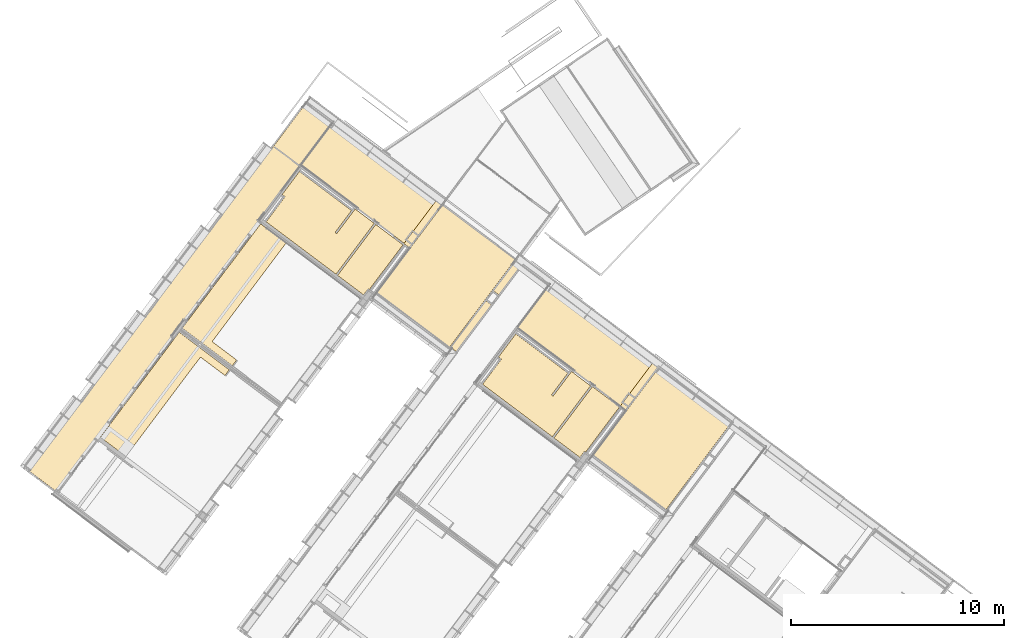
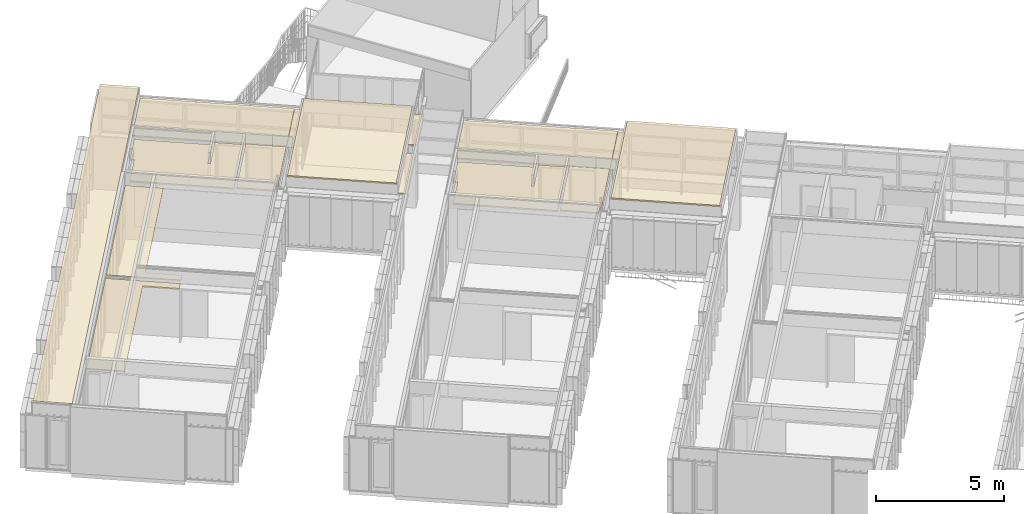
# One storey, part 219 of 243: 13 coverings.
"""IFC2X3 building model written with IfcOpenShell, lengths in metres."""

from ifc_helpers import new_model, entity, si_unit, converted_unit, derived_unit, direction, frame, frame_2d, origin, place, context, subcontext, project, spatial, polyline, rectangle, outline, extrude, material, layer, layer_set, layer_usage, type_object, element, save


model = new_model("IFC2X3")

# Units and contexts
model_context = context("Model", 3, precision=1e-05, world=origin(), true_north=direction((6.123031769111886e-17, 1.0)))
body_context = subcontext(model_context, "Body", "Model", "MODEL_VIEW")
ifc_project = project(units=[si_unit("LENGTHUNIT", "METRE"), si_unit("AREAUNIT", "SQUARE_METRE"), si_unit("VOLUMEUNIT", "CUBIC_METRE"), converted_unit("PLANEANGLEUNIT", "DEGREE", entity("IfcRatioMeasure", 0.017453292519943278), si_unit("PLANEANGLEUNIT", "RADIAN"), dimensions=[0, 0, 0, 0, 0, 0, 0]), si_unit("MASSUNIT", "GRAM", prefix="KILO"), derived_unit("MASSDENSITYUNIT", [(si_unit("MASSUNIT", "GRAM", prefix="KILO"), 1), (si_unit("LENGTHUNIT", "METRE"), -3)]), derived_unit("IONCONCENTRATIONUNIT", [(si_unit("MASSUNIT", "GRAM", prefix="KILO"), 1), (si_unit("LENGTHUNIT", "METRE"), -3)]), derived_unit("MOMENTOFINERTIAUNIT", [(si_unit("LENGTHUNIT", "METRE"), 4)]), si_unit("TIMEUNIT", "SECOND"), si_unit("FREQUENCYUNIT", "HERTZ"), si_unit("THERMODYNAMICTEMPERATUREUNIT", "DEGREE_CELSIUS"), derived_unit("THERMALTRANSMITTANCEUNIT", [(si_unit("MASSUNIT", "GRAM", prefix="KILO"), 1), (si_unit("THERMODYNAMICTEMPERATUREUNIT", "KELVIN"), -1), (si_unit("TIMEUNIT", "SECOND"), -3)]), derived_unit("THERMALCONDUCTANCEUNIT", [(si_unit("MASSUNIT", "GRAM", prefix="KILO"), 1), (si_unit("THERMODYNAMICTEMPERATUREUNIT", "KELVIN"), -1), (si_unit("TIMEUNIT", "SECOND"), -3), (si_unit("LENGTHUNIT", "METRE"), 1)]), derived_unit("VOLUMETRICFLOWRATEUNIT", [(si_unit("LENGTHUNIT", "METRE"), 3), (si_unit("TIMEUNIT", "SECOND"), -1)]), derived_unit("MASSFLOWRATEUNIT", [(si_unit("MASSUNIT", "GRAM", prefix="KILO"), 1), (si_unit("TIMEUNIT", "SECOND"), -1)]), derived_unit("ROTATIONALFREQUENCYUNIT", [(si_unit("TIMEUNIT", "SECOND"), -1)]), si_unit("ELECTRICCURRENTUNIT", "AMPERE"), si_unit("ELECTRICVOLTAGEUNIT", "VOLT"), si_unit("POWERUNIT", "WATT"), si_unit("FORCEUNIT", "NEWTON", prefix="KILO"), si_unit("ILLUMINANCEUNIT", "LUX"), si_unit("LUMINOUSFLUXUNIT", "LUMEN"), si_unit("LUMINOUSINTENSITYUNIT", "CANDELA"), derived_unit("USERDEFINED", [(si_unit("MASSUNIT", "GRAM", prefix="KILO"), -1), (si_unit("LENGTHUNIT", "METRE"), -2), (si_unit("TIMEUNIT", "SECOND"), 3), (si_unit("LUMINOUSFLUXUNIT", "LUMEN"), 1)]), derived_unit("USERDEFINED", [(si_unit("MASSUNIT", "GRAM", prefix="KILO"), 1), (si_unit("TIMEUNIT", "SECOND"), -3), (si_unit("LENGTHUNIT", "METRE"), 3), (si_unit("ELECTRICCURRENTUNIT", "AMPERE"), -2)]), derived_unit("SOUNDPOWERUNIT", [(si_unit("MASSUNIT", "GRAM", prefix="KILO"), 1), (si_unit("TIMEUNIT", "SECOND"), -3), (si_unit("LENGTHUNIT", "METRE"), 2)]), derived_unit("SOUNDPRESSUREUNIT", [(si_unit("MASSUNIT", "GRAM", prefix="KILO"), 1), (si_unit("LENGTHUNIT", "METRE"), -1), (si_unit("TIMEUNIT", "SECOND"), -2)]), derived_unit("LINEARVELOCITYUNIT", [(si_unit("LENGTHUNIT", "METRE"), 1), (si_unit("TIMEUNIT", "SECOND"), -1)]), si_unit("PRESSUREUNIT", "PASCAL"), derived_unit("USERDEFINED", [(si_unit("MASSUNIT", "GRAM", prefix="KILO"), 1), (si_unit("LENGTHUNIT", "METRE"), -2), (si_unit("TIMEUNIT", "SECOND"), -2)]), derived_unit("LINEARFORCEUNIT", [(si_unit("MASSUNIT", "GRAM", prefix="KILO"), 1), (si_unit("TIMEUNIT", "SECOND"), -2)]), derived_unit("PLANARFORCEUNIT", [(si_unit("MASSUNIT", "GRAM", prefix="KILO"), 1), (si_unit("LENGTHUNIT", "METRE"), -1), (si_unit("TIMEUNIT", "SECOND"), -2)]), derived_unit("SPECIFICHEATCAPACITYUNIT", [(si_unit("THERMODYNAMICTEMPERATUREUNIT", "KELVIN"), -1), (si_unit("LENGTHUNIT", "METRE"), 2), (si_unit("TIMEUNIT", "SECOND"), -2)]), derived_unit("HEATINGVALUEUNIT", [(si_unit("LENGTHUNIT", "METRE"), 2), (si_unit("TIMEUNIT", "SECOND"), -2)]), derived_unit("VAPORPERMEABILITYUNIT", [(si_unit("LENGTHUNIT", "METRE"), -1), (si_unit("TIMEUNIT", "SECOND"), 1)]), derived_unit("DYNAMICVISCOSITYUNIT", [(si_unit("MASSUNIT", "GRAM", prefix="KILO"), 1), (si_unit("TIMEUNIT", "SECOND"), -1), (si_unit("LENGTHUNIT", "METRE"), -1)]), derived_unit("THERMALEXPANSIONCOEFFICIENTUNIT", [(si_unit("THERMODYNAMICTEMPERATUREUNIT", "KELVIN"), -1)]), derived_unit("MODULUSOFELASTICITYUNIT", [(si_unit("MASSUNIT", "GRAM", prefix="KILO"), 1), (si_unit("LENGTHUNIT", "METRE"), -1), (si_unit("TIMEUNIT", "SECOND"), -2)]), derived_unit("ISOTHERMALMOISTURECAPACITYUNIT", [(si_unit("LENGTHUNIT", "METRE"), 3), (si_unit("MASSUNIT", "GRAM", prefix="KILO"), -1)]), derived_unit("MOISTUREDIFFUSIVITYUNIT", [(si_unit("TIMEUNIT", "SECOND"), -1), (si_unit("LENGTHUNIT", "METRE"), 2)])], contexts=[model_context])

# Site, building, storey
site_placement = place(None, frame((0.0, 0.0, 235.0), z_axis=(0.0, 0.0, 1.0), x_axis=(-0.7996477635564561, 0.6004693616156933, 0.0)))
site = spatial("IfcSite", under=ifc_project, at=site_placement, Name="Default", CompositionType="ELEMENT")
building_placement = place(site_placement, origin())
building = spatial("IfcBuilding", under=site, at=building_placement, CompositionType="ELEMENT")
storey_placement = place(building_placement, origin())
storey = spatial("IfcBuildingStorey", under=building, at=storey_placement, Name="P0- Escola", CompositionType="ELEMENT", Elevation=0.0)

# Coverings
ifc_material_1 = material(Name="_Aillament")
ifc_layer_1 = layer(ifc_material_1, 0.05)
ifc_material_2 = material(Name="_PYL- SOS")
ifc_layer_2 = layer(ifc_material_2, 0.015)
ifc_layer_set_1 = layer_set([ifc_layer_1, ifc_layer_2], Name="Techo compuesto:SOS- Guix Laminat- Aillament- 6,5 cm")
ifc_layer_usage_1 = layer_usage(ifc_layer_set_1, "AXIS3", "POSITIVE", 0.0)
covering_type_1 = type_object("IfcCoveringType", Name="Techo compuesto:SOS- Guix Laminat- Aillament- 6,5 cm", PredefinedType="CEILING")
covering_1_placement = place(storey_placement, frame((54.045147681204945, -42.04019175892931, 2.5649999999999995)))
element("IfcCovering", 1, at=covering_1_placement, inside=storey, type_object=covering_type_1, material=ifc_layer_usage_1, Name="Techo compuesto:SOS- Guix Laminat- Aillament- 6,5 cm", ObjectType="Techo compuesto:SOS- Guix Laminat- Aillament- 6,5 cm", PredefinedType="CEILING", context=body_context, shape_type="SweptSolid", body=[
    extrude(rectangle(XDim=2.569999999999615, YDim=6.064999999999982, at=frame_2d((-4.3298697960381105e-15, -4.218847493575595e-15), x_axis=(1.0, 0.0))), frame((3.032499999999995, 1.2849999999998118, 0.0), z_axis=(0.0, 0.0, 1.0), x_axis=(0.0, 1.0, 0.0)), (0.0, 0.0, 1.0), 0.06499999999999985),
])
covering_2_placement = place(storey_placement, frame((72.84514768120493, -42.04019175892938, 3.0850000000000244)))
element("IfcCovering", 2, at=covering_2_placement, inside=storey, type_object=covering_type_1, material=ifc_layer_usage_1, Name="Techo compuesto:SOS- Guix Laminat- Aillament- 6,5 cm", ObjectType="Techo compuesto:SOS- Guix Laminat- Aillament- 6,5 cm", PredefinedType="CEILING", context=body_context, shape_type="SweptSolid", body=[
    extrude(rectangle(XDim=21.68625000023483, YDim=1.5349999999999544, at=frame_2d((0.8465619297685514, 0.15350000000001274), x_axis=(1.0, 0.0))), frame((0.9210000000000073, 9.996563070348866, 0.0), z_axis=(0.0, 0.0, 1.0), x_axis=(0.0, 1.0, 0.0)), (0.0, 0.0, 1.0), 0.06499999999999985),
])
covering_3_placement = place(storey_placement, frame((66.74514768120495, -42.04019175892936, 2.5649999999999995)))
element("IfcCovering", 3, at=covering_3_placement, inside=storey, type_object=covering_type_1, material=ifc_layer_usage_1, Name="Techo compuesto:SOS- Guix Laminat- Aillament- 6,5 cm", ObjectType="Techo compuesto:SOS- Guix Laminat- Aillament- 6,5 cm", PredefinedType="CEILING", context=body_context, shape_type="SweptSolid", body=[
    extrude(rectangle(XDim=2.569999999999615, YDim=6.064999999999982, at=frame_2d((-4.3298697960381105e-15, 4.218847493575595e-15), x_axis=(1.0, 0.0))), frame((3.032499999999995, 1.2849999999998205, 0.0), z_axis=(0.0, 0.0, 1.0), x_axis=(0.0, 1.0, 0.0)), (0.0, 0.0, 1.0), 0.06499999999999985),
])
covering_4_placement = place(storey_placement, frame((49.41014768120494, -42.04019175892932, 3.0850000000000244)))
element("IfcCovering", 4, at=covering_4_placement, inside=storey, type_object=covering_type_1, material=ifc_layer_usage_1, Name="Techo compuesto:SOS- Guix Laminat- Aillament- 6,5 cm", ObjectType="Techo compuesto:SOS- Guix Laminat- Aillament- 6,5 cm", PredefinedType="CEILING", context=body_context, shape_type="SweptSolid", body=[
    extrude(rectangle(XDim=5.274999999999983, YDim=4.269999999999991, at=frame_2d((2.220446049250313e-15, 4.440892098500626e-15), x_axis=(1.0, 0.0))), frame((2.135, 2.637500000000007, 0.0), z_axis=(0.0, 0.0, 1.0), x_axis=(0.0, -1.0, 0.0)), (0.0, 0.0, 1.0), 0.06499999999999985),
])
covering_5_placement = place(storey_placement, frame((62.11014768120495, -42.04019175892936, 3.0850000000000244)))
element("IfcCovering", 5, at=covering_5_placement, inside=storey, type_object=covering_type_1, material=ifc_layer_usage_1, Name="Techo compuesto:SOS- Guix Laminat- Aillament- 6,5 cm", ObjectType="Techo compuesto:SOS- Guix Laminat- Aillament- 6,5 cm", PredefinedType="CEILING", context=body_context, shape_type="SweptSolid", body=[
    extrude(rectangle(XDim=5.274999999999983, YDim=4.269999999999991, at=frame_2d((2.220446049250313e-15, 4.440892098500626e-15), x_axis=(1.0, 0.0))), frame((2.134999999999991, 2.637500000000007, 0.0), z_axis=(0.0, 0.0, 1.0), x_axis=(0.0, -1.0, 0.0)), (0.0, 0.0, 1.0), 0.06499999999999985),
])
covering_6_placement = place(storey_placement, frame((66.74514768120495, -39.38019175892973, 2.6)))
element("IfcCovering", 6, at=covering_6_placement, inside=storey, type_object=covering_type_1, material=ifc_layer_usage_1, Name="Techo compuesto:SOS- Guix Laminat- Aillament- 6,5 cm", ObjectType="Techo compuesto:SOS- Guix Laminat- Aillament- 6,5 cm", PredefinedType="CEILING", context=body_context, shape_type="SweptSolid", body=[
    extrude(outline(polyline([(-1.0403333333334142, -1.1183333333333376), (0.48766666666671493, -1.1183333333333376), (0.48766666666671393, -0.7533333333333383), (0.5526666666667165, -0.7533333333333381), (0.552666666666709, 1.8716666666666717), (-1.0403333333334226, 1.8716666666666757), (-1.0403333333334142, -1.1183333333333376)])), frame((0.5526666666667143, 1.8716666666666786, 0.0), z_axis=(0.0, 0.0, 1.0), x_axis=(-1.0, 0.0, 0.0)), (0.0, 0.0, 1.0), 0.06499999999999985),
])
covering_7_placement = place(storey_placement, frame((68.42814768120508, -39.38019175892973, 2.5649999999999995)))
element("IfcCovering", 7, at=covering_7_placement, inside=storey, type_object=covering_type_1, material=ifc_layer_usage_1, Name="Techo compuesto:SOS- Guix Laminat- Aillament- 6,5 cm", ObjectType="Techo compuesto:SOS- Guix Laminat- Aillament- 6,5 cm", PredefinedType="CEILING", context=body_context, shape_type="SweptSolid", body=[
    extrude(outline(polyline([(-1.9611999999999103, -1.7660000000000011), (2.1407999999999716, -1.7660000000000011), (2.1407999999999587, 1.2240000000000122), (1.020799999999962, 1.2240000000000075), (1.0207999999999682, -0.22599999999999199), (0.9307999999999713, -0.22599999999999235), (0.9307999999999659, 1.0640000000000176), (-2.1311999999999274, 1.0640000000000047), (-2.131199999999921, -0.2960000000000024), (-1.9611999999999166, -0.29600000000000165), (-1.9611999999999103, -1.7660000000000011)])), frame((2.1407999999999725, 1.2240000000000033, 0.0), z_axis=(0.0, 0.0, 1.0), x_axis=(-1.0, 0.0, 0.0)), (0.0, 0.0, 1.0), 0.06499999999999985),
])
covering_8_placement = place(storey_placement, frame((54.045147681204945, -39.40019175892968, 2.6)))
element("IfcCovering", 8, at=covering_8_placement, inside=storey, type_object=covering_type_1, material=ifc_layer_usage_1, Name="Techo compuesto:SOS- Guix Laminat- Aillament- 6,5 cm", ObjectType="Techo compuesto:SOS- Guix Laminat- Aillament- 6,5 cm", PredefinedType="CEILING", context=body_context, shape_type="SweptSolid", body=[
    extrude(outline(polyline([(-1.0403333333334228, -1.1249999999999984), (0.48766666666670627, -1.1249999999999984), (0.4876666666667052, -0.7599999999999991), (0.5526666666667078, -0.7599999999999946), (0.5526666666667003, 1.8850000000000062), (-1.0403333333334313, 1.8850000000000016), (-1.0403333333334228, -1.1249999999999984)])), frame((0.5526666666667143, 1.8850000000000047, 0.0), z_axis=(0.0, 0.0, 1.0), x_axis=(-1.0, 0.0, 0.0)), (0.0, 0.0, 1.0), 0.06499999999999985),
])
covering_9_placement = place(storey_placement, frame((55.72814768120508, -39.38019175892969, 2.5649999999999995)))
element("IfcCovering", 9, at=covering_9_placement, inside=storey, type_object=covering_type_1, material=ifc_layer_usage_1, Name="Techo compuesto:SOS- Guix Laminat- Aillament- 6,5 cm", ObjectType="Techo compuesto:SOS- Guix Laminat- Aillament- 6,5 cm", PredefinedType="CEILING", context=body_context, shape_type="SweptSolid", body=[
    extrude(outline(polyline([(-1.961199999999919, -1.7660000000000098), (2.1407999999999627, -1.7660000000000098), (2.14079999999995, 1.2240000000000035), (1.0207999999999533, 1.2239999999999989), (1.0207999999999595, -0.22600000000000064), (0.9307999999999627, -0.226000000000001), (0.9307999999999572, 1.064000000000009), (-2.131199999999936, 1.063999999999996), (-2.13119999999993, -0.29600000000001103), (-1.9611999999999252, -0.2960000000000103), (-1.961199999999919, -1.7660000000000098)])), frame((2.140799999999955, 1.2239999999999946, 0.0), z_axis=(0.0, 0.0, 1.0), x_axis=(-1.0, 0.0, 0.0)), (0.0, 0.0, 1.0), 0.06499999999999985),
])
ifc_layer_3 = layer(ifc_material_1, 0.02)
ifc_layer_4 = layer(ifc_material_2, 0.015)
ifc_layer_set_2 = layer_set([ifc_layer_3, ifc_layer_4], Name="Techo compuesto:SOS- Guix Laminat- Aillament- 3,5 cm")
ifc_layer_usage_2 = layer_usage(ifc_layer_set_2, "AXIS3", "POSITIVE", 0.0)
covering_type_2 = type_object("IfcCoveringType", Name="Techo compuesto:SOS- Guix Laminat- Aillament- 3,5 cm", PredefinedType="CEILING")
covering_10_placement = place(storey_placement, frame((53.700147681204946, -42.04019175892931, 2.5649999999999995)))
element("IfcCovering", 10, at=covering_10_placement, inside=storey, type_object=covering_type_2, material=ifc_layer_usage_2, Name="Techo compuesto:SOS- Guix Laminat- Aillament- 3,5 cm", ObjectType="Techo compuesto:SOS- Guix Laminat- Aillament- 3,5 cm", PredefinedType="CEILING", context=body_context, shape_type="SweptSolid", body=[
    extrude(rectangle(XDim=0.3450000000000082, YDim=2.5900000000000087, at=frame_2d((-0.0074999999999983, -0.4283333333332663), x_axis=(1.0, 0.0))), frame((0.1800000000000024, 1.7233333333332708, 0.0)), (0.0, 0.0, 1.0), 0.03500000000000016),
])
covering_11_placement = place(storey_placement, frame((66.40014768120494, -42.040191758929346, 2.5649999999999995)))
element("IfcCovering", 11, at=covering_11_placement, inside=storey, type_object=covering_type_2, material=ifc_layer_usage_2, Name="Techo compuesto:SOS- Guix Laminat- Aillament- 3,5 cm", ObjectType="Techo compuesto:SOS- Guix Laminat- Aillament- 3,5 cm", PredefinedType="CEILING", context=body_context, shape_type="SweptSolid", body=[
    extrude(rectangle(XDim=0.3450000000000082, YDim=2.5900000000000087, at=frame_2d((-0.007500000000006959, -0.42833333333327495), x_axis=(1.0, 0.0))), frame((0.18000000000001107, 1.7233333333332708, 0.0)), (0.0, 0.0, 1.0), 0.03500000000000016),
])
covering_12_placement = place(storey_placement, frame((61.700147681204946, -42.27219170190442, 2.5649999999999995)))
element("IfcCovering", 12, at=covering_12_placement, inside=storey, type_object=covering_type_2, material=ifc_layer_usage_2, Name="Techo compuesto:SOS- Guix Laminat- Aillament- 3,5 cm", ObjectType="Techo compuesto:SOS- Guix Laminat- Aillament- 3,5 cm", PredefinedType="CEILING", context=body_context, shape_type="SweptSolid", body=[
    extrude(rectangle(XDim=0.3899918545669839, YDim=2.0669999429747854, at=frame_2d((8.659739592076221e-15, -0.05799998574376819), x_axis=(1.0, 0.0))), frame((0.19499592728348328, 1.091499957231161, 0.0)), (0.0, 0.0, 1.0), 0.03500000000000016),
    extrude(rectangle(XDim=2.744998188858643, YDim=0.3899918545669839, at=frame_2d((-2.1094237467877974e-15, 8.659739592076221e-15), x_axis=(1.0, 0.0))), frame((0.19499592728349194, 4.019502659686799, 0.0), z_axis=(0.0, 0.0, 1.0), x_axis=(0.0, -1.0, 0.0)), (0.0, 0.0, 1.0), 0.03500000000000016),
])
ifc_material_3 = material(Name="_Fusta massisa- T1")
ifc_layer_5 = layer(ifc_material_3, 0.06)
ifc_layer_set_3 = layer_set([ifc_layer_5], Name="Techo compuesto:SOS- Fusta- Revestiment- 6 cm")
ifc_layer_usage_3 = layer_usage(ifc_layer_set_3, "AXIS3", "POSITIVE", 0.0)
covering_type_3 = type_object("IfcCoveringType", Name="Techo compuesto:SOS- Fusta- Revestiment- 6 cm", PredefinedType="CEILING")
covering_13_placement = place(storey_placement, frame((69.74414768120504, -36.16018997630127, 2.5050000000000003)))
element("IfcCovering", 13, at=covering_13_placement, inside=storey, type_object=covering_type_3, material=ifc_layer_usage_3, Name="Techo compuesto:SOS- Fusta- Revestiment- 6 cm", ObjectType="Techo compuesto:SOS- Fusta- Revestiment- 6 cm", PredefinedType="CEILING", context=body_context, shape_type="SweptSolid", body=[
    extrude(outline(polyline([(-3.9720000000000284, -1.478666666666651), (2.1539999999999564, -1.478666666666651), (2.1539999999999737, 1.4573333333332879), (1.8180000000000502, 1.4573333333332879), (1.8180000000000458, 0.02133333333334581), (-3.9720000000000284, 0.02133333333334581), (-3.9720000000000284, -1.478666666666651)])), frame((1.4573333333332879, 3.9720000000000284, 0.0), z_axis=(0.0, 0.0, 1.0), x_axis=(0.0, 1.0, 0.0)), (0.0, 0.0, 1.0), 0.059999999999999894),
    extrude(outline(polyline([(-2.1669988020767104, -1.4786666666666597), (3.997997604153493, -1.4786666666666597), (3.997997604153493, 0.021333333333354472), (-1.8309988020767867, 0.021333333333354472), (-1.8309988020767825, 1.4573333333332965), (-2.1669988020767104, 1.4573333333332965), (-2.1669988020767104, -1.4786666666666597)])), frame((1.4573333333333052, 8.531002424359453, 0.0), z_axis=(0.0, 0.0, 1.0), x_axis=(0.0, 1.0, 0.0)), (0.0, 0.0, 1.0), 0.059999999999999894),
])

save(model, "model.ifc")
